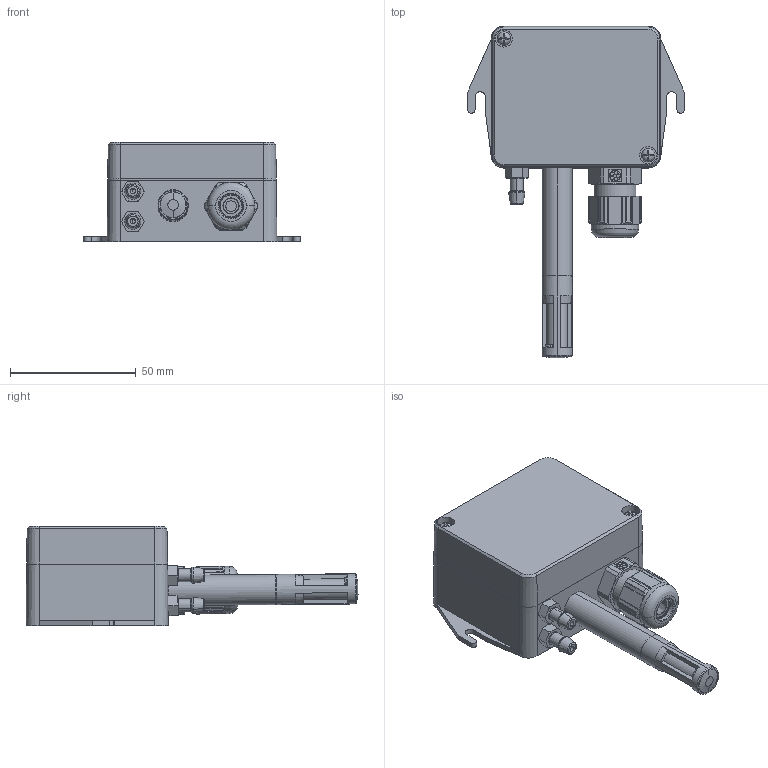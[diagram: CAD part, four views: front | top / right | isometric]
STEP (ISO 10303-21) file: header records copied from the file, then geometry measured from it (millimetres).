
FILE_DESCRIPTION (( 'STEP AP214' ), '1' );
FILE_NAME ('Base BM Room version.STEP', '2025-02-04T14:20:18', ( '' ), ( '' ), 'SwSTEP 2.0', 'SolidWorks 2022', '' );
FILE_SCHEMA (( 'AUTOMOTIVE_DESIGN' ));
Length unit declared in the file: millimetre
Products named in the file (19): F_hlerkappe_Grundk_rper_F_hlerrohr Lang.STEP.STEP; Filterkappe auf Fühlerrohr.STEP; SKINTOPM16.step; Universens.STEP.STEP; PG_Skintop_ST_16x1,5.R_102716.step; F_hlerkappe_Abdeckung_F_hlerrohr Lang.STEP.STEP; Gehäuse-Unterteil Druck+Temp+Feuchte Raum Base; Universens F_hler_F_hlerrohr Lang.STEP.STEP; Filtermedium_F_hlerrohr Lang.STEP.STEP; Druckanschluss M5-Silikon; Gehäuseschraube; PG_Skintop_ST_16x1,5.R_102717.step; F_hlerkappe_F_hlerrohr Lang.STEP.STEP; Filterkappe auf Fühlerrohr; Gehäuse-Deckel 67x56x15 DS01; Base BM Room version; PG_Skintop_ST_16x1,5.R_102718.step; SKINTOPM16; Fühlerrohr 50mm base
Assembly tree (20 placements, depth 7):
  Base BM Room version
    Gehäuse-Unterteil Druck+Temp+Feuchte Raum Base
    SKINTOPM16
      SKINTOPM16.step
        PG_Skintop_ST_16x1,5.R_102716.step
        PG_Skintop_ST_16x1,5.R_102717.step
        PG_Skintop_ST_16x1,5.R_102718.step
    Fühlerrohr 50mm base
    Filterkappe auf Fühlerrohr
      Filterkappe auf Fühlerrohr.STEP
        Universens.STEP.STEP
          Universens F_hler_F_hlerrohr Lang.STEP.STEP
            F_hlerkappe_F_hlerrohr Lang.STEP.STEP
              F_hlerkappe_Grundk_rper_F_hlerrohr Lang.STEP.STEP
              F_hlerkappe_Abdeckung_F_hlerrohr Lang.STEP.STEP
              Filtermedium_F_hlerrohr Lang.STEP.STEP
    Druckanschluss M5-Silikon  x2
    Gehäuse-Deckel 67x56x15 DS01
    Gehäuseschraube  x2
Bounding box: 86 x 131.83 x 39.5 mm (x, y, z)
Volume: 49254 mm3; surface area: 51857.8 mm2
Topology: 13 solids, 13 shells, 886 faces, 2287 edges, 1466 vertices
Faces by surface type: plane 403, cylinder 204, cone 176, bspline 66, torus 37
Entity records: 33646 total; most frequent: CARTESIAN_POINT 11365, ORIENTED_EDGE 4210, DIRECTION 3879, EDGE_CURVE 2105, AXIS2_PLACEMENT_3D 1450, VERTEX_POINT 1355, VECTOR 979, LINE 979
